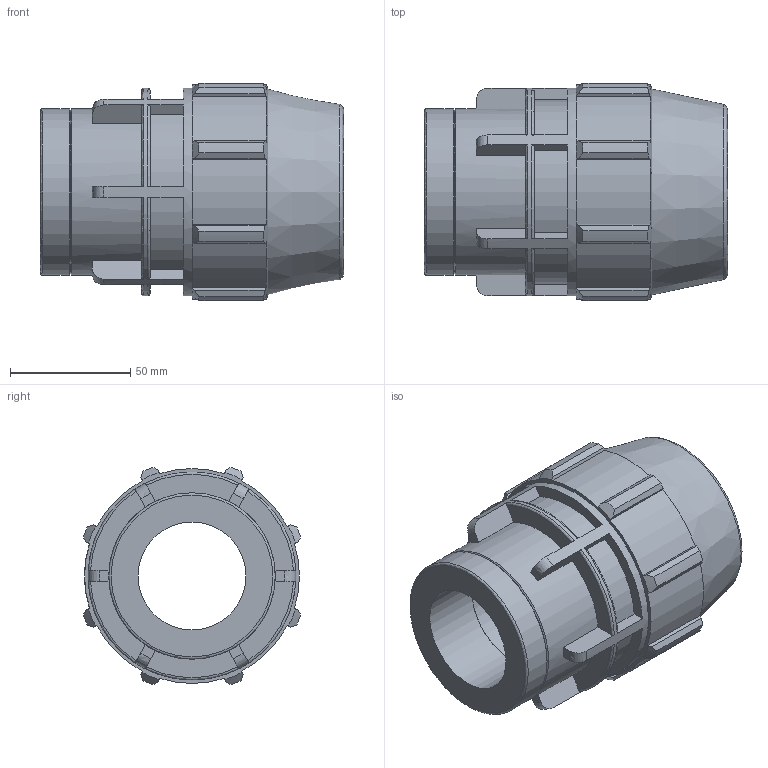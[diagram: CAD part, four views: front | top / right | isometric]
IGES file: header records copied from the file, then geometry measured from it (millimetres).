
Global section: file name: 0703M0T15015.ipt; native system: Autodesk Inventor 2019; preprocessor: unknown; author: KIM; date: 20210826.124525; units: inch
Bounding box: 125.98 x 90.34 x 90.34 mm (x, y, z)
Volume: 399756.5 mm3; surface area: 64333.2 mm2
Topology: 1 solids, 1 shells, 148 faces, 413 edges, 277 vertices
Faces by surface type: plane 86, revolution 25, cylinder 25, cone 12
Full cylindrical faces by diameter (mm): 69.129 x2, 86.411 x1
